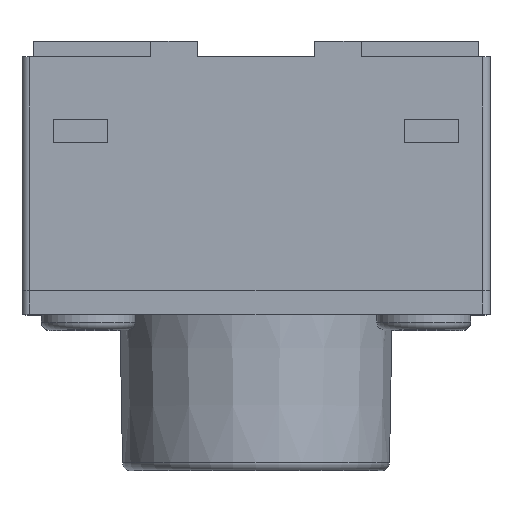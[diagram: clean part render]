
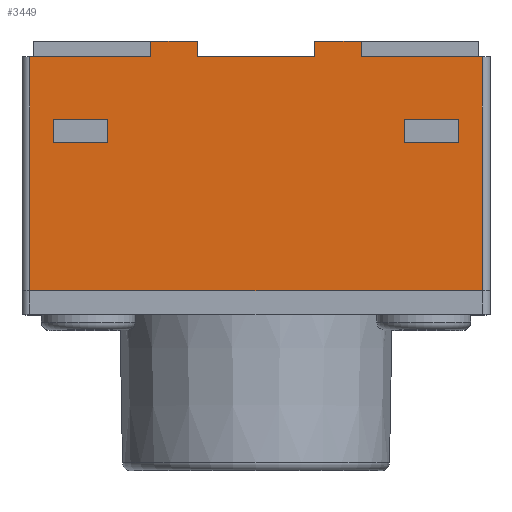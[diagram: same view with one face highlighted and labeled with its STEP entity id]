
A CAD part, top view. The second image highlights one B-rep face of the part: STEP entity #3449.
In plain terms, the highlighted planar face has unit normal (0, 0, 1).
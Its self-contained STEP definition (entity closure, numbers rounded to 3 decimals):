
#733=DIRECTION('',(1.,0.,0.));
#734=VECTOR('',#733,5.8);
#735=CARTESIAN_POINT('',(-2.9,0.,3.));
#736=LINE('',#735,#734);
#1636=DIRECTION('',(0.,1.,0.));
#1637=VECTOR('',#1636,0.3);
#1638=CARTESIAN_POINT('',(-2.6,1.9,3.));
#1639=LINE('',#1638,#1637);
#1643=DIRECTION('',(-1.,0.,0.));
#1644=VECTOR('',#1643,0.7);
#1645=CARTESIAN_POINT('',(-1.9,1.9,3.));
#1646=LINE('',#1645,#1644);
#1650=DIRECTION('',(0.,-1.,0.));
#1651=VECTOR('',#1650,0.3);
#1652=CARTESIAN_POINT('',(-1.9,2.2,3.));
#1653=LINE('',#1652,#1651);
#1657=DIRECTION('',(1.,0.,0.));
#1658=VECTOR('',#1657,0.7);
#1659=CARTESIAN_POINT('',(-2.6,2.2,3.));
#1660=LINE('',#1659,#1658);
#1664=DIRECTION('',(-1.,0.,0.));
#1665=VECTOR('',#1664,0.7);
#1666=CARTESIAN_POINT('',(2.6,1.9,3.));
#1667=LINE('',#1666,#1665);
#1671=DIRECTION('',(0.,-1.,0.));
#1672=VECTOR('',#1671,0.3);
#1673=CARTESIAN_POINT('',(2.6,2.2,3.));
#1674=LINE('',#1673,#1672);
#1678=DIRECTION('',(1.,0.,0.));
#1679=VECTOR('',#1678,0.7);
#1680=CARTESIAN_POINT('',(1.9,2.2,3.));
#1681=LINE('',#1680,#1679);
#1685=DIRECTION('',(0.,1.,0.));
#1686=VECTOR('',#1685,0.3);
#1687=CARTESIAN_POINT('',(1.9,1.9,3.));
#1688=LINE('',#1687,#1686);
#1692=DIRECTION('',(1.,0.,0.));
#1693=VECTOR('',#1692,1.55);
#1694=CARTESIAN_POINT('',(-2.9,3.,3.));
#1695=LINE('',#1694,#1693);
#1699=DIRECTION('',(0.,-1.,0.));
#1700=VECTOR('',#1699,0.2);
#1701=CARTESIAN_POINT('',(-1.35,3.2,3.));
#1702=LINE('',#1701,#1700);
#1706=DIRECTION('',(0.,-1.,0.));
#1707=VECTOR('',#1706,0.2);
#1708=CARTESIAN_POINT('',(-0.75,3.2,3.));
#1709=LINE('',#1708,#1707);
#1713=DIRECTION('',(1.,0.,0.));
#1714=VECTOR('',#1713,1.5);
#1715=CARTESIAN_POINT('',(-0.75,3.,3.));
#1716=LINE('',#1715,#1714);
#1720=DIRECTION('',(0.,-1.,0.));
#1721=VECTOR('',#1720,0.2);
#1722=CARTESIAN_POINT('',(0.75,3.2,3.));
#1723=LINE('',#1722,#1721);
#1727=DIRECTION('',(0.,-1.,0.));
#1728=VECTOR('',#1727,0.2);
#1729=CARTESIAN_POINT('',(1.35,3.2,3.));
#1730=LINE('',#1729,#1728);
#1734=DIRECTION('',(1.,0.,0.));
#1735=VECTOR('',#1734,1.55);
#1736=CARTESIAN_POINT('',(1.35,3.,3.));
#1737=LINE('',#1736,#1735);
#1741=DIRECTION('',(0.,-1.,0.));
#1742=VECTOR('',#1741,3.);
#1743=CARTESIAN_POINT('',(2.9,3.,3.));
#1744=LINE('',#1743,#1742);
#1748=DIRECTION('',(0.,-1.,0.));
#1749=VECTOR('',#1748,3.);
#1750=CARTESIAN_POINT('',(-2.9,3.,3.));
#1751=LINE('',#1750,#1749);
#1951=DIRECTION('',(1.,0.,0.));
#1952=VECTOR('',#1951,0.6);
#1953=CARTESIAN_POINT('',(-1.35,3.2,3.));
#1954=LINE('',#1953,#1952);
#2091=DIRECTION('',(1.,0.,0.));
#2092=VECTOR('',#2091,0.6);
#2093=CARTESIAN_POINT('',(0.75,3.2,3.));
#2094=LINE('',#2093,#2092);
#2268=CARTESIAN_POINT('',(-2.6,1.9,3.));
#2269=VERTEX_POINT('',#2268);
#2272=CARTESIAN_POINT('',(-2.6,2.2,3.));
#2273=VERTEX_POINT('',#2272);
#2276=CARTESIAN_POINT('',(-1.9,2.2,3.));
#2277=VERTEX_POINT('',#2276);
#2280=CARTESIAN_POINT('',(-1.9,1.9,3.));
#2281=VERTEX_POINT('',#2280);
#2284=CARTESIAN_POINT('',(2.6,1.9,3.));
#2285=VERTEX_POINT('',#2284);
#2288=CARTESIAN_POINT('',(1.9,1.9,3.));
#2289=VERTEX_POINT('',#2288);
#2292=CARTESIAN_POINT('',(1.9,2.2,3.));
#2293=VERTEX_POINT('',#2292);
#2296=CARTESIAN_POINT('',(2.6,2.2,3.));
#2297=VERTEX_POINT('',#2296);
#2380=CARTESIAN_POINT('',(-2.9,0.,3.));
#2382=VERTEX_POINT('',#2380);
#2385=CARTESIAN_POINT('',(2.9,0.,3.));
#2387=VERTEX_POINT('',#2385);
#2426=CARTESIAN_POINT('',(-1.35,3.,3.));
#2427=VERTEX_POINT('',#2426);
#2429=CARTESIAN_POINT('',(-0.75,3.,3.));
#2431=VERTEX_POINT('',#2429);
#2432=CARTESIAN_POINT('',(0.75,3.,3.));
#2434=VERTEX_POINT('',#2432);
#2436=CARTESIAN_POINT('',(1.35,3.,3.));
#2437=VERTEX_POINT('',#2436);
#2474=CARTESIAN_POINT('',(-1.35,3.2,3.));
#2475=VERTEX_POINT('',#2474);
#2476=CARTESIAN_POINT('',(-0.75,3.2,3.));
#2478=VERTEX_POINT('',#2476);
#2480=CARTESIAN_POINT('',(0.75,3.2,3.));
#2482=VERTEX_POINT('',#2480);
#2484=CARTESIAN_POINT('',(1.35,3.2,3.));
#2485=VERTEX_POINT('',#2484);
#2496=CARTESIAN_POINT('',(-2.9,3.,3.));
#2497=VERTEX_POINT('',#2496);
#2498=CARTESIAN_POINT('',(2.9,3.,3.));
#2499=VERTEX_POINT('',#2498);
#3405=CARTESIAN_POINT('',(-3.,0.,3.));
#3406=DIRECTION('',(0.,0.,1.));
#3407=DIRECTION('',(1.,0.,0.));
#3408=AXIS2_PLACEMENT_3D('',#3405,#3406,#3407);
#3409=PLANE('',#3408);
#3410=ORIENTED_EDGE('',*,*,#3162,.T.);
#3412=ORIENTED_EDGE('',*,*,#3411,.F.);
#3414=ORIENTED_EDGE('',*,*,#3413,.T.);
#3416=ORIENTED_EDGE('',*,*,#3415,.T.);
#3417=ORIENTED_EDGE('',*,*,#3185,.T.);
#3419=ORIENTED_EDGE('',*,*,#3418,.F.);
#3421=ORIENTED_EDGE('',*,*,#3420,.T.);
#3423=ORIENTED_EDGE('',*,*,#3422,.T.);
#3424=ORIENTED_EDGE('',*,*,#3221,.T.);
#3426=ORIENTED_EDGE('',*,*,#3425,.T.);
#3427=ORIENTED_EDGE('',*,*,#2515,.F.);
#3429=ORIENTED_EDGE('',*,*,#3428,.F.);
#3430=EDGE_LOOP('',(#3410,#3412,#3414,#3416,#3417,#3419,#3421,#3423,#3424,#3426,
#3427,#3429));
#3431=FACE_OUTER_BOUND('',#3430,.F.);
#3433=ORIENTED_EDGE('',*,*,#3432,.F.);
#3435=ORIENTED_EDGE('',*,*,#3434,.F.);
#3437=ORIENTED_EDGE('',*,*,#3436,.F.);
#3439=ORIENTED_EDGE('',*,*,#3438,.F.);
#3440=EDGE_LOOP('',(#3433,#3435,#3437,#3439));
#3441=FACE_BOUND('',#3440,.F.);
#3442=ORIENTED_EDGE('',*,*,#3294,.F.);
#3443=ORIENTED_EDGE('',*,*,#3328,.F.);
#3445=ORIENTED_EDGE('',*,*,#3444,.F.);
#3446=ORIENTED_EDGE('',*,*,#3383,.F.);
#3447=EDGE_LOOP('',(#3442,#3443,#3445,#3446));
#3448=FACE_BOUND('',#3447,.F.);
#2515=EDGE_CURVE('',#2382,#2387,#736,.T.);
#3162=EDGE_CURVE('',#2497,#2427,#1695,.T.);
#3185=EDGE_CURVE('',#2431,#2434,#1716,.T.);
#3221=EDGE_CURVE('',#2437,#2499,#1737,.T.);
#3294=EDGE_CURVE('',#2269,#2273,#1639,.T.);
#3328=EDGE_CURVE('',#2281,#2269,#1646,.T.);
#3383=EDGE_CURVE('',#2273,#2277,#1660,.T.);
#3411=EDGE_CURVE('',#2475,#2427,#1702,.T.);
#3413=EDGE_CURVE('',#2475,#2478,#1954,.T.);
#3415=EDGE_CURVE('',#2478,#2431,#1709,.T.);
#3418=EDGE_CURVE('',#2482,#2434,#1723,.T.);
#3420=EDGE_CURVE('',#2482,#2485,#2094,.T.);
#3422=EDGE_CURVE('',#2485,#2437,#1730,.T.);
#3425=EDGE_CURVE('',#2499,#2387,#1744,.T.);
#3428=EDGE_CURVE('',#2497,#2382,#1751,.T.);
#3432=EDGE_CURVE('',#2285,#2289,#1667,.T.);
#3434=EDGE_CURVE('',#2297,#2285,#1674,.T.);
#3436=EDGE_CURVE('',#2293,#2297,#1681,.T.);
#3438=EDGE_CURVE('',#2289,#2293,#1688,.T.);
#3444=EDGE_CURVE('',#2277,#2281,#1653,.T.);
#3449=ADVANCED_FACE('',(#3431,#3441,#3448),#3409,.T.);
